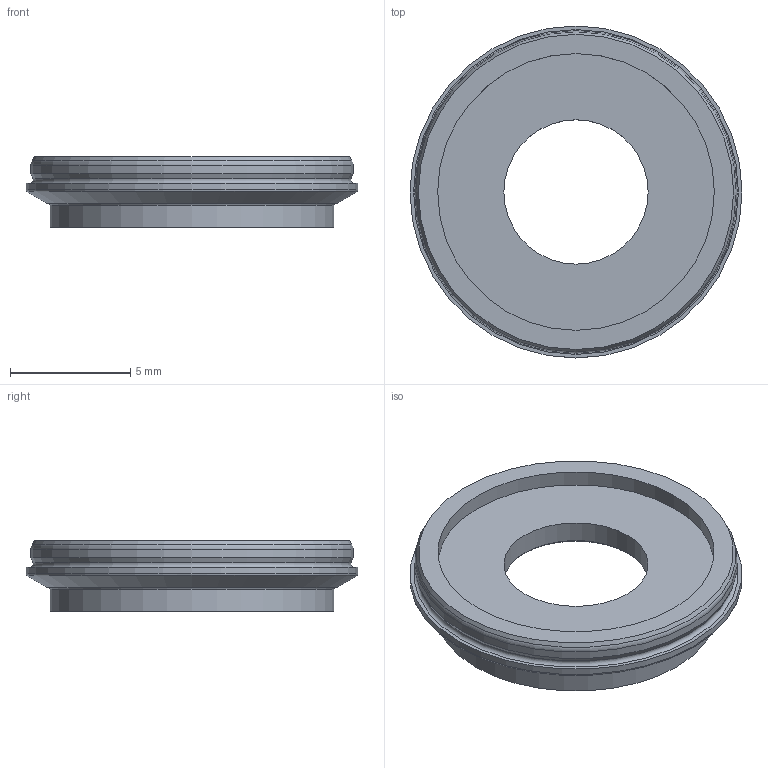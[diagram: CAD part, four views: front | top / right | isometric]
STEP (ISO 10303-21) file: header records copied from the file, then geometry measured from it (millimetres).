
FILE_DESCRIPTION(/* description */ (''),/* implementation_level */ '2;1');
FILE_NAME(/* name */ '14GPT_flange_b_416.5924.01.stp',/* time_stamp */ '2024-10-30T09:28:32+01:00',/* author */ ('DR. FRITZ FAULHABER GmbH & Co. KG'),/* organization */ ('DR. FRITZ FAULHABER GmbH & Co. KG'),/* preprocessor_version */ 'ST-DEVELOPER v19.3',/* originating_system */ 'SIEMENS PLM Software NX2212.4000',/* authorisation */ '');
FILE_SCHEMA (('AUTOMOTIVE_DESIGN { 1 0 10303 214 3 1 1 1 }'));
Length unit declared in the file: millimetre
Products named in the file (1): E_objects
Bounding box: 13.8 x 13.8 x 2.92 mm (x, y, z)
Volume: 151.1 mm3; surface area: 425 mm2
Topology: 1 solids, 1 shells, 22 faces, 43 edges, 27 vertices
Faces by surface type: cylinder 6, plane 6, cone 5, torus 5
Full cylindrical faces by diameter (mm): 6 x1, 11.4 x1, 11.5 x1, 11.8 x1, 13.4 x1, 13.8 x1
Entity records: 480 total; most frequent: DIRECTION 90, CARTESIAN_POINT 67, AXIS2_PLACEMENT_3D 45, FACE_BOUND 44, EDGE_LOOP 44, ORIENTED_EDGE 44, ADVANCED_FACE 22, VERTEX_POINT 22
